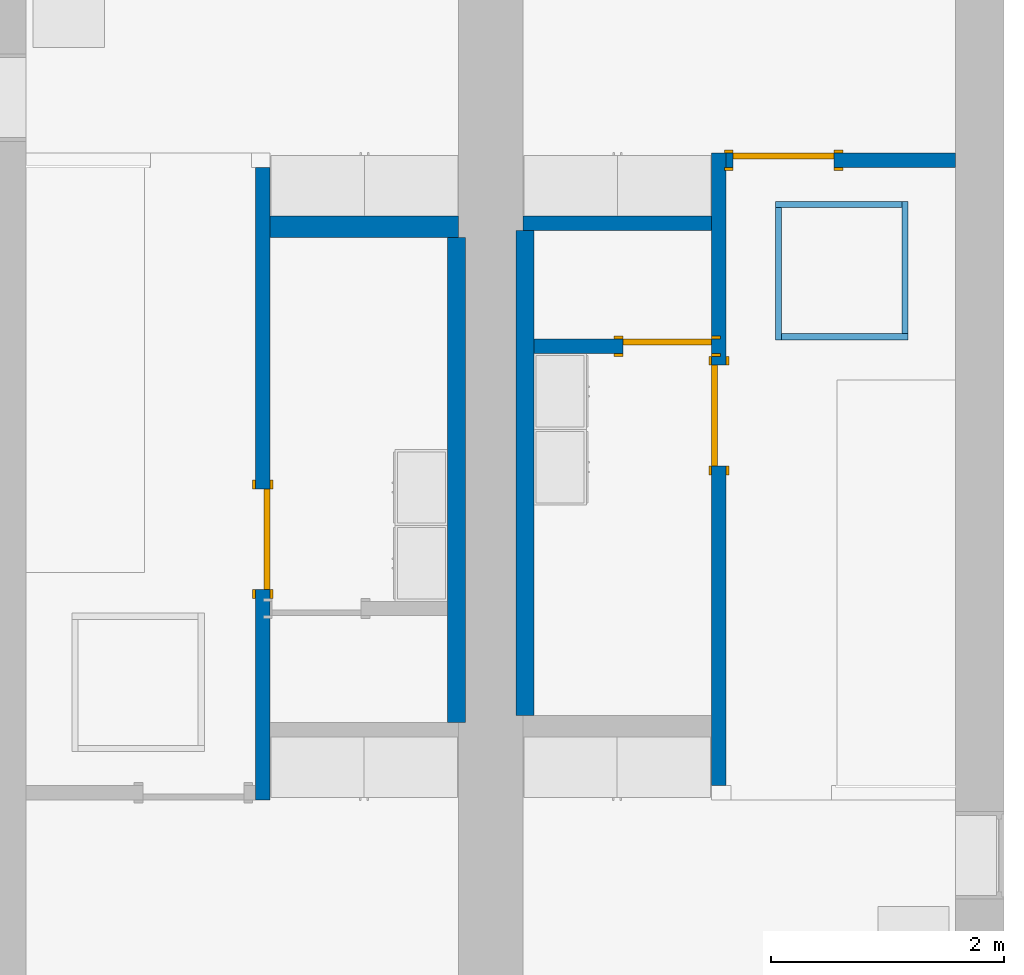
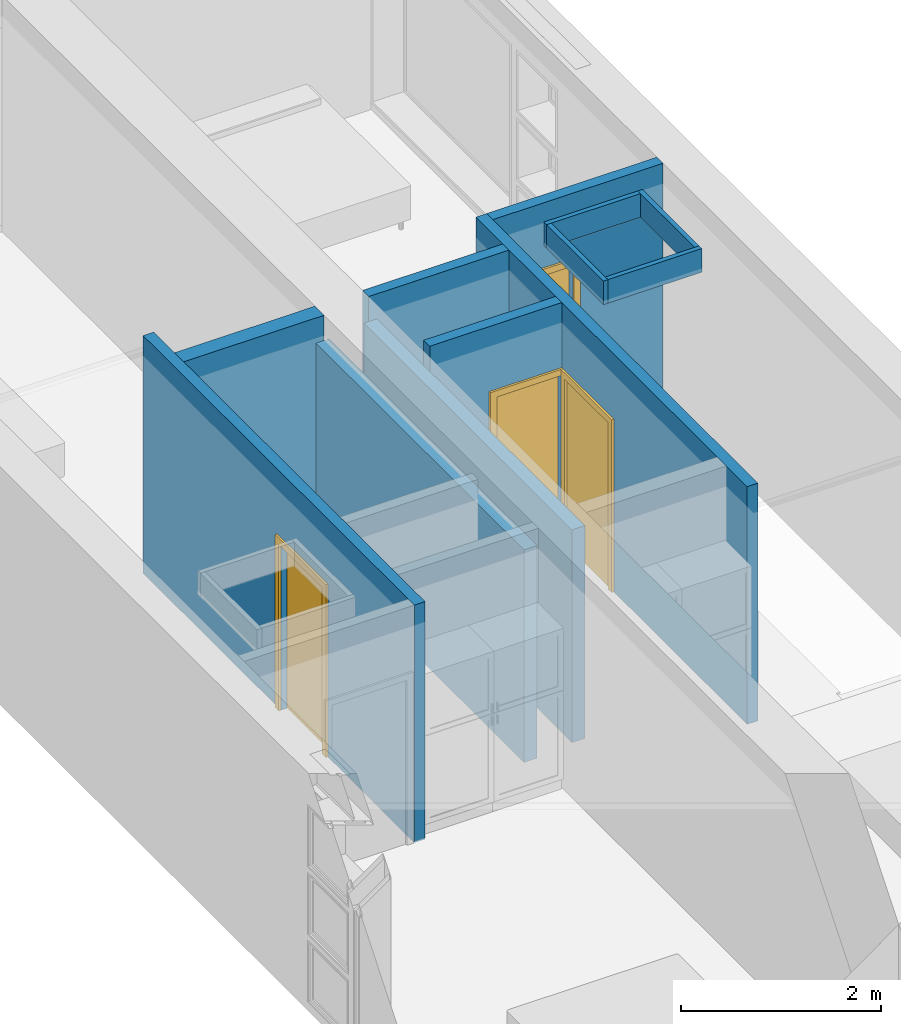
# One storey, part 3 of 16: 12 walls, 4 doors, 4 openings.
"""IFC4 building model written with IfcOpenShell, lengths in metres."""

from ifc_helpers import new_model, entity, si_unit, converted_unit, frame, frame_2d, origin, origin_2d_with_axis, place, context, project, spatial, polyline, rectangle, outline, extrude, source, transform, mapped, material, layer, layer_set, layer_usage, type_object, type_shapes, element, fill, save


model = new_model("IFC4")

# Units and contexts
model_context = context("Model", 3, precision=1e-09, world=origin())
plan_context = context("Plan", 3, precision=1e-09, world=origin())
ifc_project = project(units=[si_unit("LENGTHUNIT", "METRE"), si_unit("AREAUNIT", "SQUARE_METRE"), si_unit("VOLUMEUNIT", "CUBIC_METRE"), converted_unit("PLANEANGLEUNIT", "DEGREE", entity("IfcRatioMeasure", 0.01745329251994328), si_unit("PLANEANGLEUNIT", "RADIAN"), dimensions=[0, 0, 0, 0, 0, 0, 0]), si_unit("TIMEUNIT", "SECOND")], contexts=[model_context, plan_context])

# Site, building, storey
site_placement = place(None, origin())
site = spatial("IfcSite", under=ifc_project, at=site_placement, Name="Default", CompositionType="ELEMENT")
building_placement = place(site_placement, origin())
building = spatial("IfcBuilding", under=site, at=building_placement, CompositionType="ELEMENT")
storey_placement = place(building_placement, frame((0.0, 0.0, 3.100000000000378)))
storey = spatial("IfcBuildingStorey", under=building, at=storey_placement, Name="Level 2", CompositionType="ELEMENT", Elevation=3.100000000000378)

# Wall, opening, door
ifc_material_1 = material(Name="Plasterboard")
ifc_layer_1 = layer(ifc_material_1, 0.016)
ifc_material_2 = material(Name="Metal - Stud Layer")
ifc_layer_2 = layer(ifc_material_2, 0.092)
ifc_layer_3 = layer(ifc_material_1, 0.016)
ifc_layer_set_1 = layer_set([ifc_layer_1, ifc_layer_2, ifc_layer_3], Name="Basic Wall:Interior - Partition (92mm Stud)")
ifc_layer_usage_1 = layer_usage(ifc_layer_set_1, "AXIS2", "NEGATIVE", 0.062)
wall_1_placement = place(storey_placement, frame((2.444, -6.250000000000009, 0.0), z_axis=(0.0, 0.0, 1.0), x_axis=(0.0, -1.0, 0.0)))
wall_1 = element("IfcWall", 1, at=wall_1_placement, inside=storey, material=ifc_layer_usage_1, Name="Basic Wall:Interior - Partition (92mm Stud)", ObjectType="Basic Wall:Interior - Partition (92mm Stud)", PredefinedType="SOLIDWALL", context=model_context, shape_type="SweptSolid", body=[
    extrude(rectangle(XDim=5.423999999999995, YDim=0.1240000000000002, at=frame_2d((2.711999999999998, 0.0), x_axis=(-1.0, 0.0))), origin(), (0.0, 0.0, 1.0), 2.900000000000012),
])
opening_1_placement = place(wall_1_placement, frame((2.75605117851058, -0.06200000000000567, 0.0)))
opening_1 = element("IfcOpeningElement", 2, at=opening_1_placement, cuts=wall_1, Name="M_Single-Flush:0864 x 2032mm:0864 x 2032mm:1", ObjectType="Opening", context=model_context, shape_type="SweptSolid", body=[
    extrude(rectangle(XDim=0.8639999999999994, YDim=2.032, at=frame_2d((1.016, 0.4319999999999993), x_axis=(0.0, 1.0))), frame((0.0, 0.0, 0.0), z_axis=(0.0, 1.0, 0.0), x_axis=(0.0, 0.0, 1.0)), (0.0, 0.0, 1.0), 0.124),
])
door_type_1 = type_object("IfcDoorType", Name="0864 x 2032mm", OperationType="SINGLE_SWING_RIGHT", ParameterTakesPrecedence=False, PredefinedType="DOOR")
shared_shape_1 = source(origin(), model_context, "Body", "SweptSolid", [
    extrude(outline(polyline([(-0.5079999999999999, -1.072999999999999), (0.5079999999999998, -1.072999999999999), (0.5079999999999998, 1.035000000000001), (0.4319999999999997, 1.035000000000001), (0.4319999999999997, -0.9970000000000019), (-0.4319999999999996, -0.9970000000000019), (-0.4319999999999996, 1.035000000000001), (-0.5079999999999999, 1.035000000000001), (-0.5079999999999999, -1.072999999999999)])), frame((0.4320000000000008, 0.1239999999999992, 1.035000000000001), z_axis=(0.0, 1.0, 0.0), x_axis=(1.0, 0.0, 0.0)), (0.0, 0.0, 1.0), 0.02499999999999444),
    extrude(outline(polyline([(-1.073, -0.5079999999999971), (1.035, -0.5079999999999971), (1.035, -0.4320000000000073), (-0.9969999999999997, -0.4320000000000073), (-0.9969999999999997, 0.4320000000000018), (1.035, 0.4320000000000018), (1.035, 0.5080000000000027), (-1.073, 0.5080000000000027), (-1.073, -0.5079999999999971)])), frame((0.4320000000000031, -0.02500000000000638, 1.035), z_axis=(0.0, 1.0, 0.0), x_axis=(0.0, 0.0, -1.0)), (0.0, 0.0, 1.0), 0.02500000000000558),
    extrude(rectangle(XDim=0.051, YDim=0.8639999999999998, at=origin_2d_with_axis()), frame((0.4320000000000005, 0.0984999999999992, 0.0), z_axis=(0.0, 0.0, 1.0), x_axis=(0.0, 1.0, 0.0)), (0.0, 0.0, 1.0), 2.032),
])
type_shapes(door_type_1, [shared_shape_1])
door_1_placement = place(opening_1_placement, origin())
door_1 = element("IfcDoor", 3, at=door_1_placement, inside=storey, type_object=door_type_1, Name="M_Single-Flush:0864 x 2032mm:0864 x 2032mm", ObjectType="0864 x 2032mm", OverallHeight=2.032, OverallWidth=0.8639999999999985, context=model_context, shape_type="MappedRepresentation", body=[
    mapped(shared_shape_1, transform((0.0, 0.0, 0.0), scale=1.0)),
])
fill(opening_1, door_1)

ifc_layer_usage_2 = layer_usage(ifc_layer_set_1, "AXIS2", "NEGATIVE", 0.062)
wall_2_placement = place(storey_placement, frame((6.356, -11.55, 0.0), z_axis=(0.0, 0.0, 1.0), x_axis=(0.0, 1.0, 0.0)))
wall_2 = element("IfcWall", 4, at=wall_2_placement, inside=storey, material=ifc_layer_usage_2, Name="Basic Wall:Interior - Partition (92mm Stud)", ObjectType="Basic Wall:Interior - Partition (92mm Stud)", PredefinedType="SOLIDWALL", context=model_context, shape_type="SweptSolid", body=[
    extrude(rectangle(XDim=5.423999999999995, YDim=0.124, at=frame_2d((2.711999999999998, 0.0), x_axis=(-1.0, 0.0))), origin(), (0.0, 0.0, 1.0), 2.900000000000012),
])
opening_2_placement = place(wall_2_placement, frame((2.74061576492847, -0.0620000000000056, 0.0)))
opening_2 = element("IfcOpeningElement", 5, at=opening_2_placement, cuts=wall_2, Name="M_Single-Flush:0864 x 2032mm:0864 x 2032mm:1", ObjectType="Opening", context=model_context, shape_type="SweptSolid", body=[
    extrude(rectangle(XDim=0.8639999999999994, YDim=2.032, at=frame_2d((1.016, 0.4319999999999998), x_axis=(0.0, 1.0))), frame((0.0, 0.0, 0.0), z_axis=(0.0, 1.0, 0.0), x_axis=(0.0, 0.0, 1.0)), (0.0, 0.0, 1.0), 0.124),
])
door_2_placement = place(opening_2_placement, origin())
door_2 = element("IfcDoor", 6, at=door_2_placement, inside=storey, type_object=door_type_1, Name="M_Single-Flush:0864 x 2032mm:0864 x 2032mm", ObjectType="0864 x 2032mm", OverallHeight=2.032, OverallWidth=0.8639999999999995, context=model_context, shape_type="MappedRepresentation", body=[
    mapped(shared_shape_1, transform((0.0, 0.0, 0.0), scale=1.0)),
])
fill(opening_2, door_2)

ifc_layer_usage_3 = layer_usage(ifc_layer_set_1, "AXIS2", "NEGATIVE", 0.062)
wall_3_placement = place(storey_placement, frame((6.418000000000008, -6.188000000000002, 0.0)))
wall_3 = element("IfcWall", 7, at=wall_3_placement, inside=storey, material=ifc_layer_usage_3, Name="Basic Wall:Interior - Partition (92mm Stud)", ObjectType="Basic Wall:Interior - Partition (92mm Stud)", PredefinedType="SOLIDWALL", context=model_context, shape_type="SweptSolid", body=[
    extrude(rectangle(XDim=1.964999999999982, YDim=0.124, at=frame_2d((0.982499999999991, 0.0), x_axis=(-1.0, 0.0))), origin(), (0.0, 0.0, 1.0), 2.900000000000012),
])
opening_3_placement = place(wall_3_placement, frame((0.06000000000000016, -0.0620000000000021, 0.0)))
opening_3 = element("IfcOpeningElement", 8, at=opening_3_placement, cuts=wall_3, Name="M_Single-Flush:0864 x 2032mm:0864 x 2032mm:1", ObjectType="Opening", context=model_context, shape_type="SweptSolid", body=[
    extrude(rectangle(XDim=0.8639999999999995, YDim=2.032, at=frame_2d((1.016, 0.432), x_axis=(0.0, -1.0))), frame((0.0, 0.0, 0.0), z_axis=(0.0, 1.0, 0.0), x_axis=(0.0, 0.0, 1.0)), (0.0, 0.0, 1.0), 0.124),
])
door_type_2 = type_object("IfcDoorType", Name="0864 x 2032mm", OperationType="SINGLE_SWING_LEFT", ParameterTakesPrecedence=False, PredefinedType="DOOR")
shared_shape_2 = source(origin(), model_context, "Body", "SweptSolid", [
    extrude(outline(polyline([(-0.5079999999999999, -1.072999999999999), (0.5079999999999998, -1.072999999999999), (0.5079999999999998, 1.035000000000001), (0.4319999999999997, 1.035000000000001), (0.4319999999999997, -0.9970000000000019), (-0.4319999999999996, -0.9970000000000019), (-0.4319999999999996, 1.035000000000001), (-0.5079999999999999, 1.035000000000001), (-0.5079999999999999, -1.072999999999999)])), frame((0.4320000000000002, 0.1489999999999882, 1.035000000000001), z_axis=(0.0, -1.0, 0.0), x_axis=(-1.0, 0.0, 0.0)), (0.0, 0.0, 1.0), 0.02499999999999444),
    extrude(outline(polyline([(-1.073, -0.5079999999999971), (1.035, -0.5079999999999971), (1.035, -0.4320000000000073), (-0.9969999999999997, -0.4320000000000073), (-0.9969999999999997, 0.4320000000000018), (1.035, 0.4320000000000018), (1.035, 0.5080000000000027), (-1.073, 0.5080000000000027), (-1.073, -0.5079999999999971)])), frame((0.4319999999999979, 0.0, 1.035), z_axis=(0.0, -1.0, 0.0), x_axis=(0.0, 0.0, -1.0)), (0.0, 0.0, 1.0), 0.02500000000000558),
    extrude(rectangle(XDim=0.8639999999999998, YDim=0.051, at=origin_2d_with_axis()), frame((0.4320000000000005, 0.09849999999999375, 0.0)), (0.0, 0.0, 1.0), 2.032),
])
type_shapes(door_type_2, [shared_shape_2])
door_3_placement = place(opening_3_placement, origin())
door_3 = element("IfcDoor", 9, at=door_3_placement, inside=storey, type_object=door_type_2, Name="M_Single-Flush:0864 x 2032mm:0864 x 2032mm", ObjectType="0864 x 2032mm", OverallHeight=2.032, OverallWidth=0.8639999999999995, context=model_context, shape_type="MappedRepresentation", body=[
    mapped(shared_shape_2, transform((0.0, 0.0, 0.0), scale=1.0)),
])
fill(opening_3, door_3)

# Walls
ifc_layer_4 = layer(ifc_material_2, 0.038)
ifc_layer_5 = layer(ifc_material_1, 0.016)
ifc_layer_set_2 = layer_set([ifc_layer_4, ifc_layer_5], Name="Basic Wall:Interior - Furring (38 mm Stud)")
ifc_layer_usage_4 = layer_usage(ifc_layer_set_2, "AXIS2", "NEGATIVE", 0.027)
wall_4_placement = place(storey_placement, frame((6.84045000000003, -6.567450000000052, 2.612)))
element("IfcWall", 10, at=wall_4_placement, inside=storey, material=ifc_layer_usage_4, Name="Basic Wall:Interior - Furring (38 mm Stud)", ObjectType="Basic Wall:Interior - Furring (38 mm Stud)", PredefinedType="SOLIDWALL", context=model_context, shape_type="SweptSolid", body=[
    extrude(rectangle(XDim=1.083100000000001, YDim=0.05400000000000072, at=frame_2d((0.5415500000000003, 0.0), x_axis=(-1.0, 0.0))), origin(), (0.0, 0.0, 1.0), 0.2880000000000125),
])
ifc_layer_usage_5 = layer_usage(ifc_layer_set_2, "AXIS2", "NEGATIVE", 0.027)
wall_5_placement = place(storey_placement, frame((7.95055000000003, -6.540450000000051, 2.612), z_axis=(0.0, 0.0, 1.0), x_axis=(0.0, -1.0, 0.0)))
element("IfcWall", 11, at=wall_5_placement, inside=storey, material=ifc_layer_usage_5, Name="Basic Wall:Interior - Furring (38 mm Stud)", ObjectType="Basic Wall:Interior - Furring (38 mm Stud)", PredefinedType="SOLIDWALL", context=model_context, shape_type="SweptSolid", body=[
    extrude(rectangle(XDim=1.13509999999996, YDim=0.05400000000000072, at=frame_2d((0.5675499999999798, 0.0), x_axis=(-1.0, 0.0))), origin(), (0.0, 0.0, 1.0), 0.2880000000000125),
])
ifc_layer_usage_6 = layer_usage(ifc_layer_set_1, "AXIS2", "NEGATIVE", 0.062)
wall_6_placement = place(storey_placement, frame((4.674999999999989, -6.728000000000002, 0.0)))
element("IfcWall", 12, at=wall_6_placement, inside=storey, material=ifc_layer_usage_6, Name="Basic Wall:Interior - Partition (92mm Stud)", ObjectType="Basic Wall:Interior - Partition (92mm Stud)", PredefinedType="SOLIDWALL", context=model_context, shape_type="SweptSolid", body=[
    extrude(rectangle(XDim=1.619000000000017, YDim=0.124, at=frame_2d((0.809500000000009, 0.0), x_axis=(-1.0, 0.0))), origin(), (0.0, 0.0, 1.0), 2.900000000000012),
])
ifc_layer_6 = layer(ifc_material_2, 0.136)
ifc_layer_7 = layer(ifc_material_1, 0.016)
ifc_layer_set_3 = layer_set([ifc_layer_6, ifc_layer_7], Name="Basic Wall:Interior - Furring (152 mm Stud)")
ifc_layer_usage_7 = layer_usage(ifc_layer_set_3, "AXIS2", "POSITIVE", -0.07600000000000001)
wall_7_placement = place(storey_placement, frame((4.105999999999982, -11.01, 0.0), z_axis=(0.0, 0.0, 1.0), x_axis=(0.0, 1.0, 0.0)))
element("IfcWall", 13, at=wall_7_placement, inside=storey, material=ifc_layer_usage_7, Name="Basic Wall:Interior - Furring (152 mm Stud)", ObjectType="Basic Wall:Interior - Furring (152 mm Stud)", PredefinedType="SOLIDWALL", context=model_context, shape_type="SweptSolid", body=[
    extrude(rectangle(XDim=4.159999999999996, YDim=0.1520000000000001, at=frame_2d((2.079999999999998, 0.0), x_axis=(-1.0, 0.0))), origin(), (0.0, 0.0, 1.0), 2.595000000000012),
])
ifc_layer_usage_8 = layer_usage(ifc_layer_set_3, "AXIS2", "POSITIVE", -0.07600000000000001)
wall_8_placement = place(storey_placement, frame((4.693999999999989, -6.790000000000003, 0.0), z_axis=(0.0, 0.0, 1.0), x_axis=(0.0, -1.0, 0.0)))
element("IfcWall", 14, at=wall_8_placement, inside=storey, material=ifc_layer_usage_8, Name="Basic Wall:Interior - Furring (152 mm Stud)", ObjectType="Basic Wall:Interior - Furring (152 mm Stud)", PredefinedType="SOLIDWALL", context=model_context, shape_type="SweptSolid", body=[
    extrude(rectangle(XDim=4.160000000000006, YDim=0.1520000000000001, at=frame_2d((2.080000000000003, 0.0), x_axis=(-1.0, 0.0))), origin(), (0.0, 0.0, 1.0), 2.595000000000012),
])

# Wall, opening, door
ifc_layer_usage_9 = layer_usage(ifc_layer_set_1, "AXIS2", "POSITIVE", -0.062)
wall_9_placement = place(storey_placement, frame((4.769999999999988, -7.783384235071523, 0.0)))
wall_9 = element("IfcWall", 15, at=wall_9_placement, inside=storey, material=ifc_layer_usage_9, Name="Basic Wall:Interior - Partition (92mm Stud)", ObjectType="Basic Wall:Interior - Partition (92mm Stud)", PredefinedType="SOLIDWALL", context=model_context, shape_type="SweptSolid", body=[
    extrude(rectangle(XDim=1.524000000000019, YDim=0.124, at=frame_2d((0.7620000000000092, 0.0), x_axis=(-1.0, 0.0))), origin(), (0.0, 0.0, 1.0), 2.900000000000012),
])
opening_4_placement = place(wall_9_placement, frame((0.7613750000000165, -0.06200000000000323, 0.0)))
opening_4 = element("IfcOpeningElement", 16, at=opening_4_placement, cuts=wall_9, Name="M_Single-Flush:0762 x 2032mm:0762 x 2032mm:1", ObjectType="Opening", context=model_context, shape_type="SweptSolid", body=[
    extrude(rectangle(XDim=0.7619999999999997, YDim=2.032, at=frame_2d((1.016, 0.3809999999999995), x_axis=(0.0, 1.0))), frame((0.0, 0.0, 0.0), z_axis=(0.0, 1.0, 0.0), x_axis=(0.0, 0.0, 1.0)), (0.0, 0.0, 1.0), 0.124),
])
door_type_3 = type_object("IfcDoorType", Name="0762 x 2032mm", OperationType="SINGLE_SWING_RIGHT", ParameterTakesPrecedence=False, PredefinedType="DOOR")
shared_shape_3 = source(origin(), model_context, "Body", "SweptSolid", [
    extrude(outline(polyline([(-0.457, -1.072999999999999), (0.4569999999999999, -1.072999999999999), (0.4569999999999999, 1.035000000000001), (0.3809999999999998, 1.035000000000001), (0.3809999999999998, -0.9970000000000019), (-0.3809999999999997, -0.9970000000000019), (-0.3809999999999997, 1.035000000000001), (-0.457, 1.035000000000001), (-0.457, -1.072999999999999)])), frame((0.3810000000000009, 0.1239999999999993, 1.035000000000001), z_axis=(0.0, 1.0, 0.0), x_axis=(1.0, 0.0, 0.0)), (0.0, 0.0, 1.0), 0.02499999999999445),
    extrude(outline(polyline([(-1.073, -0.4569999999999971), (1.035, -0.4569999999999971), (1.035, -0.3810000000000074), (-0.9969999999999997, -0.3810000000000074), (-0.9969999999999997, 0.3810000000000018), (1.035, 0.3810000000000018), (1.035, 0.4570000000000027), (-1.073, 0.4570000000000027), (-1.073, -0.4569999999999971)])), frame((0.3810000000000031, -0.02500000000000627, 1.035), z_axis=(0.0, 1.0, 0.0), x_axis=(0.0, 0.0, -1.0)), (0.0, 0.0, 1.0), 0.02500000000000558),
    extrude(rectangle(XDim=0.051, YDim=0.7619999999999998, at=origin_2d_with_axis()), frame((0.3810000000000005, 0.09849999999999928, 0.0), z_axis=(0.0, 0.0, 1.0), x_axis=(0.0, 1.0, 0.0)), (0.0, 0.0, 1.0), 2.032),
])
type_shapes(door_type_3, [shared_shape_3])
door_4_placement = place(opening_4_placement, origin())
door_4 = element("IfcDoor", 17, at=door_4_placement, inside=storey, type_object=door_type_3, Name="M_Single-Flush:0762 x 2032mm:0762 x 2032mm", ObjectType="0762 x 2032mm", OverallHeight=2.032, OverallWidth=0.762, context=model_context, shape_type="MappedRepresentation", body=[
    mapped(shared_shape_3, transform((0.0, 0.0, 0.0), scale=1.0)),
])
fill(opening_4, door_4)

# Walls
ifc_layer_8 = layer(ifc_material_1, 0.016)
ifc_layer_9 = layer(ifc_material_2, 0.152)
ifc_layer_10 = layer(ifc_material_1, 0.016)
ifc_layer_set_4 = layer_set([ifc_layer_8, ifc_layer_9, ifc_layer_10], Name="Basic Wall:Interior - Plumbing (152mm Stud)")
ifc_layer_usage_10 = layer_usage(ifc_layer_set_4, "AXIS2", "NEGATIVE", 0.092)
wall_10_placement = place(storey_placement, frame((2.505999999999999, -6.758000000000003, 0.0)))
element("IfcWall", 18, at=wall_10_placement, inside=storey, material=ifc_layer_usage_10, Name="Basic Wall:Interior - Plumbing (152mm Stud)", ObjectType="Basic Wall:Interior - Plumbing (152mm Stud)", PredefinedType="SOLIDWALL", context=model_context, shape_type="SweptSolid", body=[
    extrude(rectangle(XDim=1.618999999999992, YDim=0.1839999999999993, at=frame_2d((0.8094999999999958, 0.0), x_axis=(-1.0, 0.0))), origin(), (0.0, 0.0, 1.0), 2.900000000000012),
])
ifc_layer_usage_11 = layer_usage(ifc_layer_set_2, "AXIS2", "NEGATIVE", 0.027)
wall_11_placement = place(storey_placement, frame((6.867450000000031, -7.729550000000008, 2.612), z_axis=(0.0, 0.0, 1.0), x_axis=(0.0, 1.0, 0.0)))
element("IfcWall", 19, at=wall_11_placement, inside=storey, material=ifc_layer_usage_11, Name="Basic Wall:Interior - Furring (38 mm Stud)", ObjectType="Basic Wall:Interior - Furring (38 mm Stud)", PredefinedType="SOLIDWALL", context=model_context, shape_type="SweptSolid", body=[
    extrude(rectangle(XDim=1.135099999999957, YDim=0.05400000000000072, at=frame_2d((0.5675499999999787, 0.0), x_axis=(-1.0, 0.0))), origin(), (0.0, 0.0, 1.0), 0.2880000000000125),
])
ifc_layer_usage_12 = layer_usage(ifc_layer_set_2, "AXIS2", "NEGATIVE", 0.027)
wall_12_placement = place(storey_placement, frame((7.977550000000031, -7.702550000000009, 2.612), z_axis=(0.0, 0.0, 1.0), x_axis=(-1.0, 0.0, 0.0)))
element("IfcWall", 20, at=wall_12_placement, inside=storey, material=ifc_layer_usage_12, Name="Basic Wall:Interior - Furring (38 mm Stud)", ObjectType="Basic Wall:Interior - Furring (38 mm Stud)", PredefinedType="SOLIDWALL", context=model_context, shape_type="SweptSolid", body=[
    extrude(rectangle(XDim=1.083100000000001, YDim=0.05400000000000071, at=frame_2d((0.5415500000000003, 0.0), x_axis=(-1.0, 0.0))), origin(), (0.0, 0.0, 1.0), 0.2880000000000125),
])

save(model, "model.ifc")
